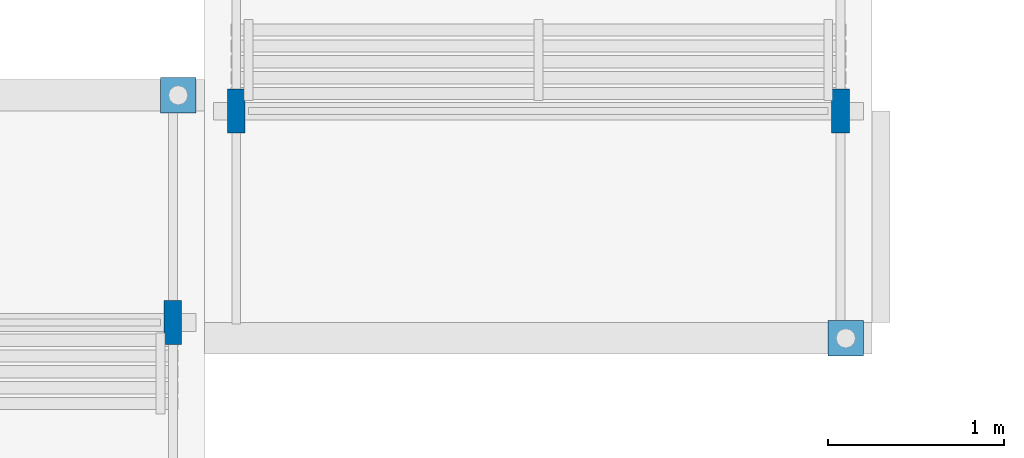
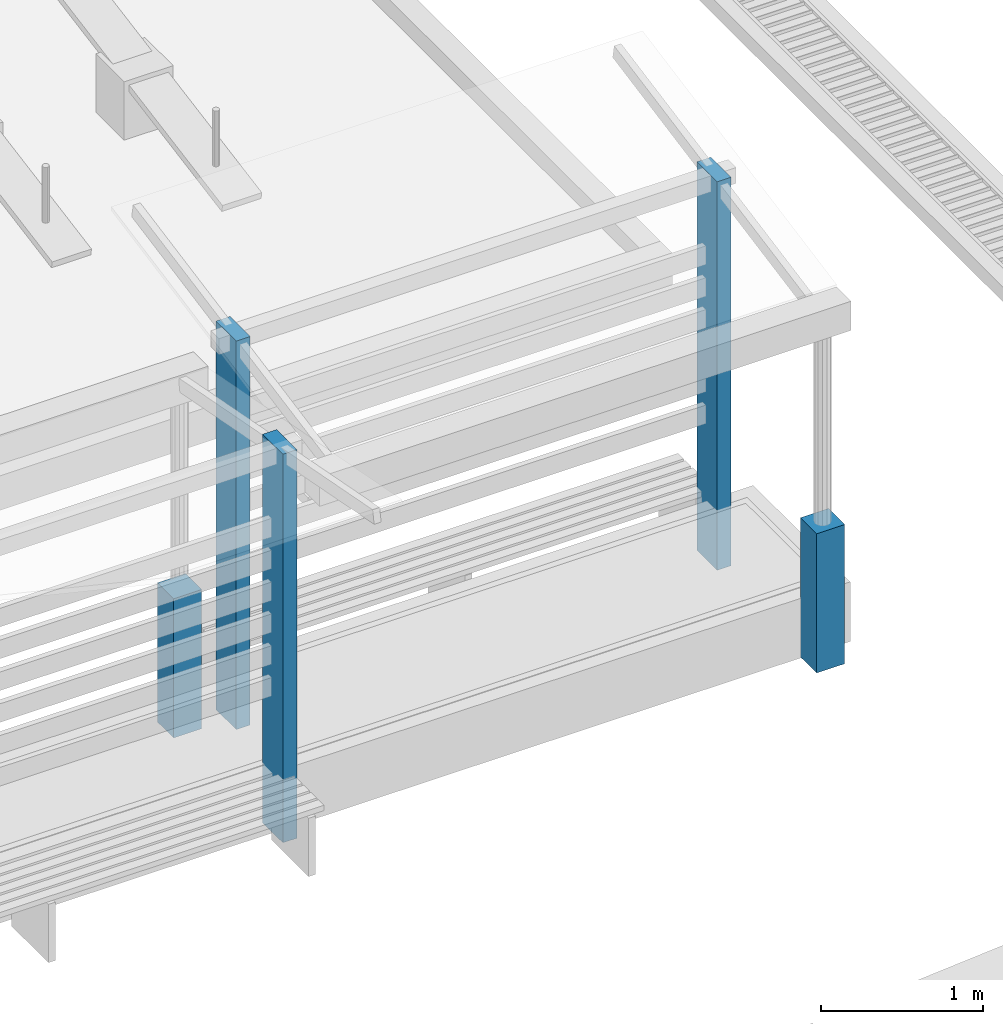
# One storey, part 4 of 90: 5 columns.
"""IFC2X3 building model written with IfcOpenShell, lengths in metres."""

from ifc_helpers import new_model, si_unit, origin, origin_with_axes, place, context, subcontext, project, spatial, faceted_brep, element, save


model = new_model("IFC2X3")

# Units and contexts
model_context = context("Model", 3, precision=1e-05, world=origin_with_axes())
body_context = subcontext(model_context, "Body", "Model", "MODEL_VIEW")
ifc_project = project(units=[si_unit("LENGTHUNIT", "METRE"), si_unit("AREAUNIT", "SQUARE_METRE"), si_unit("VOLUMEUNIT", "CUBIC_METRE"), si_unit("PLANEANGLEUNIT", "RADIAN")], contexts=[model_context])

# Site, building, storey
site_placement = place(None, origin_with_axes())
site = spatial("IfcSite", under=ifc_project, at=site_placement, Name="Predio Los Mangos - Morales, San Martín", CompositionType="ELEMENT")
building_placement = place(site_placement, origin())
building = spatial("IfcBuilding", under=site, at=building_placement, Name="Hogar de Refugio Temporal", CompositionType="ELEMENT")
storey_placement = place(building_placement, origin())
storey = spatial("IfcBuildingStorey", under=building, at=storey_placement, Name="NIVEL 1 (NPT +0.00)", CompositionType="ELEMENT", Elevation=0.0)

# Columns
column_1_placement = place(storey_placement, origin())
element("IfcColumn", 1, at=column_1_placement, inside=storey, Name="oc01_columna", ObjectType="Columna", context=body_context, shape_type="Brep", body=[
    faceted_brep([(40.565, 75.125, 0.0), (40.565, 74.875, 0.0), (40.465, 74.875, 0.0), (40.465, 75.125, 0.0), (40.565, 75.125, 2.93), (40.465, 75.125, 2.93), (40.465, 74.875, 2.93), (40.565, 74.875, 2.93)], [[[0, 1, 2, 3]], [[4, 5, 6, 7]], [[0, 3, 5, 4]], [[3, 2, 6, 5]], [[2, 1, 7, 6]], [[1, 0, 4, 7]]]),
])
column_2_placement = place(storey_placement, origin())
element("IfcColumn", 2, at=column_2_placement, inside=storey, Name="oc01_columna", ObjectType="Columna", context=body_context, shape_type="Brep", body=[
    faceted_brep([(37.135, 75.125, 0.0), (37.135, 74.875, 0.0), (37.035, 74.875, 0.0), (37.035, 75.125, 0.0), (37.135, 75.125, 2.93), (37.035, 75.125, 2.93), (37.035, 74.875, 2.93), (37.135, 74.875, 2.93)], [[[0, 1, 2, 3]], [[4, 5, 6, 7]], [[0, 3, 5, 4]], [[3, 2, 6, 5]], [[2, 1, 7, 6]], [[1, 0, 4, 7]]]),
])
column_3_placement = place(storey_placement, origin())
element("IfcColumn", 3, at=column_3_placement, inside=storey, Name="oc01_falsa_columna", ObjectType="Falsa columna", context=body_context, shape_type="Brep", body=[
    faceted_brep([(40.645, 73.81, 0.0), (40.645, 73.61, 0.0), (40.445, 73.61, 0.0), (40.445, 73.81, 0.0), (40.645, 73.81, 1.05), (40.445, 73.81, 1.05), (40.445, 73.61, 1.05), (40.645, 73.61, 1.05)], [[[0, 1, 2, 3]], [[4, 5, 6, 7]], [[0, 3, 5, 4]], [[3, 2, 6, 5]], [[2, 1, 7, 6]], [[1, 0, 4, 7]]]),
])
column_4_placement = place(storey_placement, origin())
element("IfcColumn", 4, at=column_4_placement, inside=storey, Name="oc01_columna", ObjectType="Columna", context=body_context, shape_type="Brep", body=[
    faceted_brep([(36.775, 73.925, 0.0), (36.775, 73.675, 0.0), (36.675, 73.675, 0.0), (36.675, 73.925, 0.0), (36.775, 73.925, 2.93), (36.675, 73.925, 2.93), (36.675, 73.675, 2.93), (36.775, 73.675, 2.93)], [[[0, 1, 2, 3]], [[4, 5, 6, 7]], [[0, 3, 5, 4]], [[3, 2, 6, 5]], [[2, 1, 7, 6]], [[1, 0, 4, 7]]]),
])
column_5_placement = place(storey_placement, origin())
element("IfcColumn", 5, at=column_5_placement, inside=storey, Name="oc01_falsa_columna", ObjectType="Falsa columna", context=body_context, shape_type="Brep", body=[
    faceted_brep([(36.855, 75.19, 0.0), (36.855, 74.99, 0.0), (36.655, 74.99, 0.0), (36.655, 75.19, 0.0), (36.855, 75.19, 1.05), (36.655, 75.19, 1.05), (36.655, 74.99, 1.05), (36.855, 74.99, 1.05)], [[[0, 1, 2, 3]], [[4, 5, 6, 7]], [[0, 3, 5, 4]], [[3, 2, 6, 5]], [[2, 1, 7, 6]], [[1, 0, 4, 7]]]),
])

save(model, "model.ifc")
